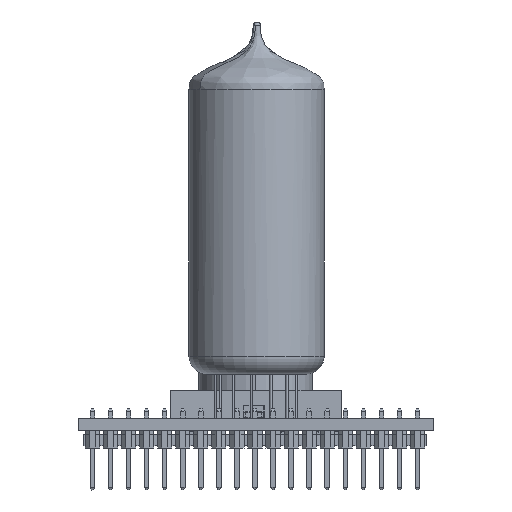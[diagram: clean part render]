
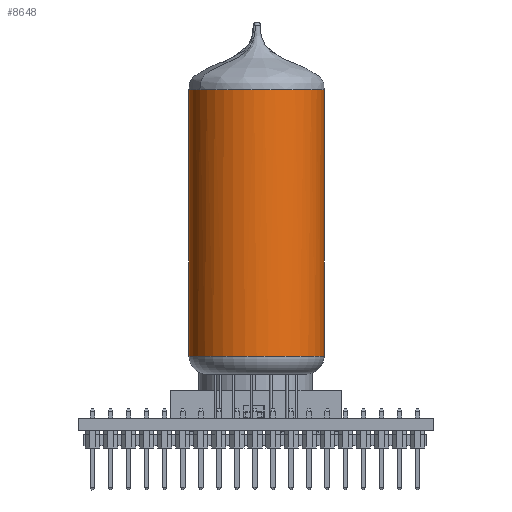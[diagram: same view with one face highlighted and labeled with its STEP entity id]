
A CAD part, left-side view. The second image highlights one B-rep face of the part: STEP entity #8648.
In plain terms, the highlighted cylindrical face has radius 9.5 mm (diameter 19 mm), a partial arc.
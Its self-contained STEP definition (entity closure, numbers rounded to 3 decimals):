
#8379 = EDGE_CURVE('',#8380,#8382,#8384,.T.);
#8380 = VERTEX_POINT('',#8381);
#8381 = CARTESIAN_POINT('',(17.025,34.425,
    46.309));
#8382 = VERTEX_POINT('',#8383);
#8383 = CARTESIAN_POINT('',(11.834,32.881,
    46.309));
#8384 = B_SPLINE_CURVE_WITH_KNOTS('',5,(#8385,#8386,#8387,#8388,#8389,
    #8390),.UNSPECIFIED.,.F.,.F.,(6,6),(0.409,0.5),
  .PIECEWISE_BEZIER_KNOTS.);
#8385 = CARTESIAN_POINT('',(17.025,34.425,
    46.309));
#8386 = CARTESIAN_POINT('',(15.955,34.426,
    46.309));
#8387 = CARTESIAN_POINT('',(14.879,34.277,
    46.309));
#8388 = CARTESIAN_POINT('',(13.819,33.973,
    46.309));
#8389 = CARTESIAN_POINT('',(12.796,33.509,
    46.309));
#8390 = CARTESIAN_POINT('',(11.834,32.881,
    46.309));
#8587 = VERTEX_POINT('',#8588);
#8588 = CARTESIAN_POINT('',(17.025,34.425,
    8.809));
#8596 = VERTEX_POINT('',#8597);
#8597 = CARTESIAN_POINT('',(17.025,15.425,
    8.809));
#8620 = VERTEX_POINT('',#8621);
#8621 = CARTESIAN_POINT('',(17.025,15.425,
    46.309));
#8630 = EDGE_CURVE('',#8620,#8596,#8631,.T.);
#8631 = LINE('',#8632,#8633);
#8632 = CARTESIAN_POINT('',(17.025,15.425,
    46.309));
#8633 = VECTOR('',#8634,1.);
#8634 = DIRECTION('',(0.,0.,-1.));
#8637 = EDGE_CURVE('',#8380,#8587,#8638,.T.);
#8638 = LINE('',#8639,#8640);
#8639 = CARTESIAN_POINT('',(17.025,34.425,
    46.309));
#8640 = VECTOR('',#8641,1.);
#8641 = DIRECTION('',(0.,0.,-1.));
#8648 = ADVANCED_FACE('',(#8649),#8676,.T.);
#8649 = FACE_BOUND('',#8650,.T.);
#8650 = EDGE_LOOP('',(#8651,#8652,#8667,#8668,#8669));
#8651 = ORIENTED_EDGE('',*,*,#8630,.F.);
#8652 = ORIENTED_EDGE('',*,*,#8653,.F.);
#8653 = EDGE_CURVE('',#8382,#8620,#8654,.T.);
#8654 = B_SPLINE_CURVE_WITH_KNOTS('',5,(#8655,#8656,#8657,#8658,#8659,
    #8660,#8661,#8662,#8663,#8664,#8665,#8666),.UNSPECIFIED.,.F.,.F.,(6,
    3,3,6),(0.5,0.75,0.781,0.909),.UNSPECIFIED.);
#8655 = CARTESIAN_POINT('',(11.834,32.881,
    46.309));
#8656 = CARTESIAN_POINT('',(9.199,31.163,
    46.309));
#8657 = CARTESIAN_POINT('',(7.51,28.536,
    46.309));
#8658 = CARTESIAN_POINT('',(6.862,25.454,
    46.309));
#8659 = CARTESIAN_POINT('',(7.41,21.983,
    46.309));
#8660 = CARTESIAN_POINT('',(9.517,19.082,46.309
    ));
#8661 = CARTESIAN_POINT('',(9.755,18.791,
    46.309));
#8662 = CARTESIAN_POINT('',(11.049,17.346,
    46.309));
#8663 = CARTESIAN_POINT('',(12.64,16.297,
    46.309));
#8664 = CARTESIAN_POINT('',(14.05,15.722,
    46.309));
#8665 = CARTESIAN_POINT('',(15.531,15.427,
    46.309));
#8666 = CARTESIAN_POINT('',(17.025,15.425,
    46.309));
#8667 = ORIENTED_EDGE('',*,*,#8379,.F.);
#8668 = ORIENTED_EDGE('',*,*,#8637,.T.);
#8669 = ORIENTED_EDGE('',*,*,#8670,.T.);
#8670 = EDGE_CURVE('',#8587,#8596,#8671,.T.);
#8671 = CIRCLE('',#8672,9.5);
#8672 = AXIS2_PLACEMENT_3D('',#8673,#8674,#8675);
#8673 = CARTESIAN_POINT('',(17.025,24.925,
    8.809));
#8674 = DIRECTION('',(0.,0.,1.));
#8675 = DIRECTION('',(0.,-1.,0.));
#8676 = CYLINDRICAL_SURFACE('',#8677,9.5);
#8677 = AXIS2_PLACEMENT_3D('',#8678,#8679,#8680);
#8678 = CARTESIAN_POINT('',(17.025,24.925,
    46.309));
#8679 = DIRECTION('',(0.,0.,-1.));
#8680 = DIRECTION('',(0.,1.,0.));
